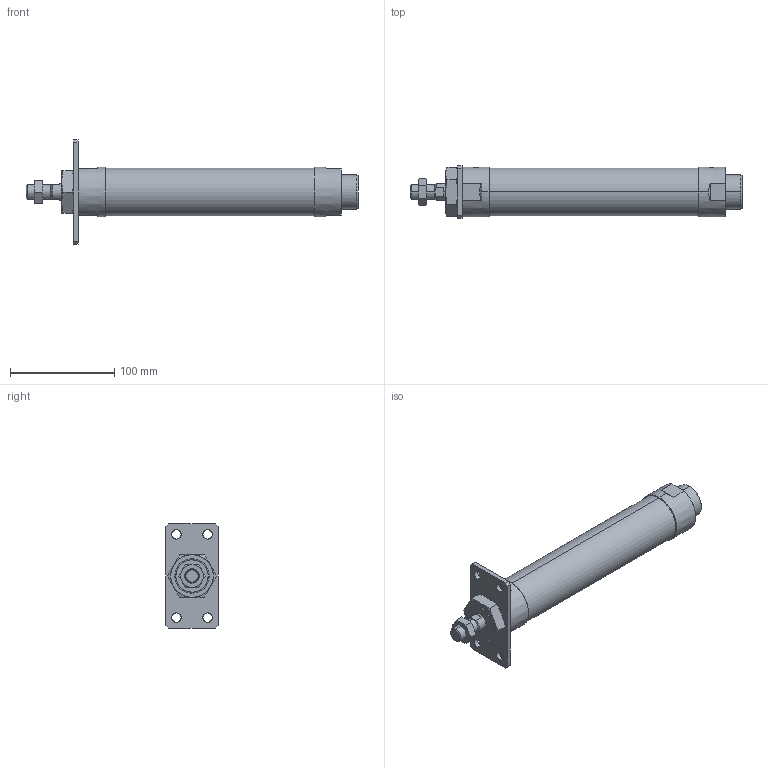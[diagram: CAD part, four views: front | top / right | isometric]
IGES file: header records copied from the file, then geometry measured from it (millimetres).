
Start section: SolidWorks IGES file using analytic representation for surfaces
Global section: file name: C:\Users\Toshiba\Desktop\J#2-40-150-A.IGS; native system: SolidWorks 2014; preprocessor: SolidWorks 2014; author: Toshiba; date: 160308.160117; units: millimetre
Bounding box: 319 x 50 x 100 mm (x, y, z)
Surface area: 62167.7 mm2 (no closed solid volume)
Topology: 0 solids, 0 shells, 114 faces, 2318 edges, 2314 vertices
Faces by surface type: bspline 67, revolution 47
